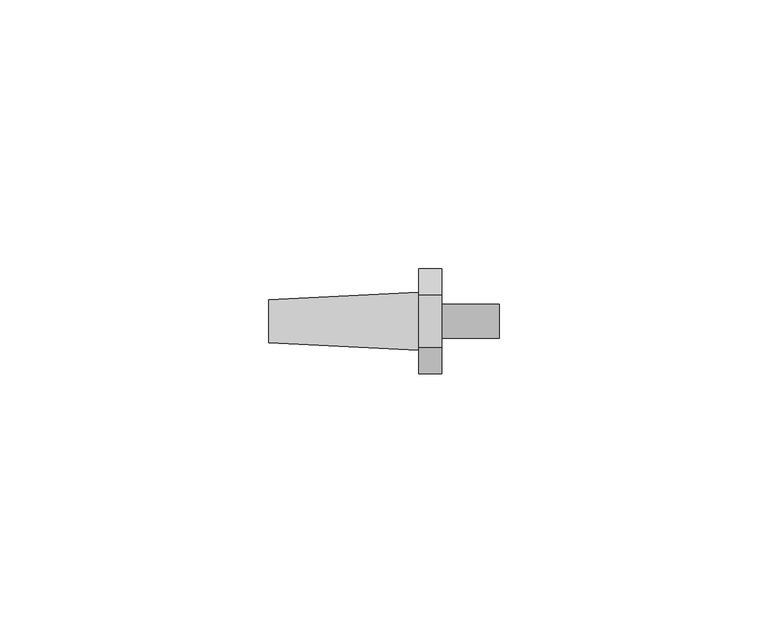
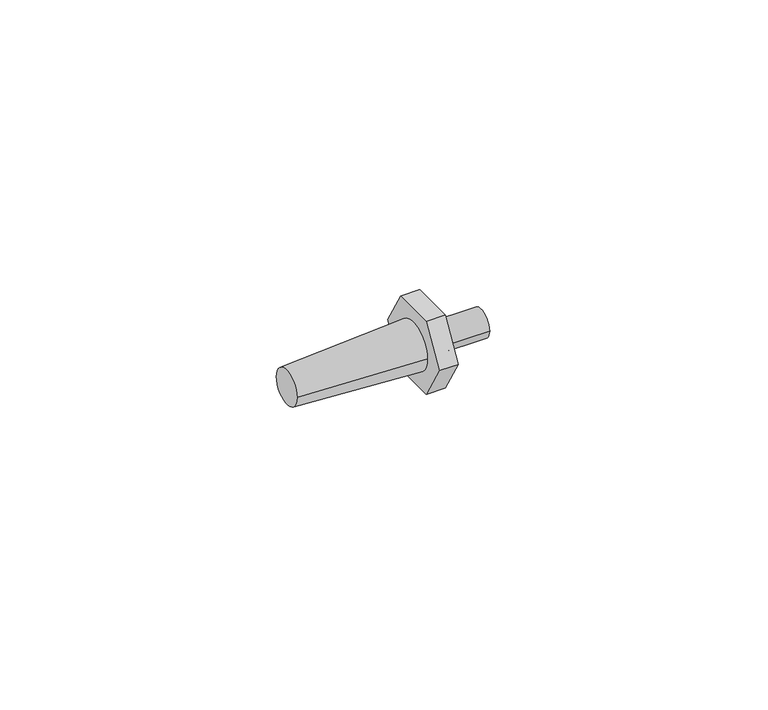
"""IFC4 building model written with IfcOpenShell, lengths in millimetres: pipe fitting geometry, 01011013 : Espiga conexion cónica/roscada."""

from ifc_helpers import new_model, si_unit, frame, origin, place, context, project, spatial, polyline, circle_curve, source, transform, mapped, element, save
from ifc_brep_helpers import plane_surface, cylinder_surface, revolved_surface, advanced_brep


def pipe_fitting_6959d2b4(model_context):
    return source(origin(), model_context, "Body", "AdvancedBrep", [
        advanced_brep(
        [(-21.5, 4.0, 0.0), (-21.5, -4.0, 0.0), (6.5, 5.4, 0.0), (6.5, -5.4, 0.0)],
        [
            (0, 1, circle_curve(frame((-21.5, 0.0, 0.0), z_axis=(-1.0, 0.0, 0.0), x_axis=(0.0, 1.0, 0.0)), 4.0)),
            (1, 0, circle_curve(frame((-21.5, 0.0, 0.0), z_axis=(-1.0, 0.0, 0.0), x_axis=(0.0, -1.0, 0.0)), 4.0)),
            (2, 3, circle_curve(frame((6.5, 0.0, 0.0), z_axis=(1.0, 0.0, 0.0), x_axis=(0.0, -1.0, 0.0)), 5.4)),
            (3, 2, circle_curve(frame((6.5, 0.0, 0.0), z_axis=(1.0, 0.0, 0.0), x_axis=(0.0, 1.0, 0.0)), 5.4)),
            (3, 1),
            (0, 2),
        ],
        [
            plane_surface(frame((-21.5, 0.0, 0.0), z_axis=(-1.0, 0.0, 0.0), x_axis=(0.0, 0.0, -1.0))),
            plane_surface(frame((6.5, 0.0, 0.0), z_axis=(1.0, 0.0, 0.0), x_axis=(0.0, 0.0, -1.0))),
            revolved_surface(polyline([(-21.5, 4.0, 0.0), (6.5, 5.4, 0.0)]), (-101.5, 0.0, 0.0), (1.0, 0.0, 0.0)),
            revolved_surface(polyline([(-21.5, -4.0, 0.0), (6.5, -5.4, 0.0)]), (-101.5, 0.0, 0.0), (1.0, 0.0, 0.0)),
        ],
        [
            (0, [[1, 2]]),
            (1, [[3, 4]]),
            (2, [[-4, 5, -1, 6]]),
            (3, [[-3, -6, -2, -5]]),
        ],
    ),
        advanced_brep(
        [(10.75, -4.9074773, 8.5), (10.75, -9.8149546, 0.0), (10.75, -4.9074773, -8.5), (10.75, 4.9074773, -8.5), (10.75, 9.8149546, 0.0), (10.75, 4.9074773, 8.5), (10.75, -3.175, 0.0), (10.75, 3.175, 0.0), (6.5, -4.9074773, 8.5), (6.5, 4.9074773, 8.5), (6.5, 9.8149546, 0.0), (6.5, 4.9074773, -8.5), (6.5, -4.9074773, -8.5), (6.5, -9.8149546, 0.0), (21.5, -3.175, 0.0), (21.5, 3.175, 0.0)],
        [
            (0, 1),
            (1, 2),
            (2, 3),
            (3, 4),
            (4, 5),
            (5, 0),
            (6, 7, circle_curve(frame((10.75, 0.0, 0.0), z_axis=(-1.0, 0.0, 0.0), x_axis=(0.0, 1.0, 0.0)), 3.175)),
            (7, 6, circle_curve(frame((10.75, 0.0, 0.0), z_axis=(-1.0, 0.0, 0.0), x_axis=(0.0, 1.0, 0.0)), 3.175)),
            (8, 9),
            (9, 10),
            (10, 11),
            (11, 12),
            (12, 13),
            (13, 8),
            (0, 8),
            (13, 1),
            (12, 2),
            (11, 3),
            (10, 4),
            (9, 5),
            (14, 15, circle_curve(frame((21.5, 0.0, 0.0), z_axis=(1.0, 0.0, 0.0), x_axis=(0.0, 1.0, 0.0)), 3.175)),
            (15, 14, circle_curve(frame((21.5, 0.0, 0.0), z_axis=(1.0, 0.0, 0.0), x_axis=(0.0, 1.0, 0.0)), 3.175)),
            (15, 7),
            (6, 14),
        ],
        [
            plane_surface(frame((10.75, -4.9074773, 8.5), z_axis=(1.0, 0.0, 0.0), x_axis=(0.0, -0.500000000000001, -0.866025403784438))),
            plane_surface(frame((6.5, -4.9074773, 8.5), z_axis=(-1.0, 0.0, 0.0), x_axis=(0.0, 0.500000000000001, 0.866025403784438))),
            plane_surface(frame((10.75, -4.9074773, 8.5), z_axis=(0.0, -0.866025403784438, 0.500000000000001), x_axis=(-1.0, 0.0, 0.0))),
            plane_surface(frame((10.75, -9.8149546, 0.0), z_axis=(0.0, -0.8660254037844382, -0.500000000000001), x_axis=(-1.0, 0.0, 0.0))),
            plane_surface(frame((10.75, -4.9074773, -8.5), z_axis=(0.0, 0.0, -1.0), x_axis=(-1.0, 0.0, 0.0))),
            plane_surface(frame((10.75, 4.9074773, -8.5), z_axis=(0.0, 0.8660254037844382, -0.500000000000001), x_axis=(-1.0, 0.0, 0.0))),
            plane_surface(frame((10.75, 9.8149546, 0.0), z_axis=(0.0, 0.866025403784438, 0.5000000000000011), x_axis=(-1.0, 0.0, 0.0))),
            plane_surface(frame((10.75, 4.9074773, 8.5), z_axis=(0.0, 0.0, 1.0), x_axis=(-1.0, 0.0, 0.0))),
            plane_surface(frame((21.5, 0.0, 0.0), z_axis=(1.0, 0.0, 0.0), x_axis=(0.0, 0.0, 1.0))),
            cylinder_surface(frame((10.75, 0.0, 0.0), z_axis=(-1.0, 0.0, 0.0), x_axis=(0.0, 1.0, 0.0)), 3.175),
        ],
        [
            (0, [[1, 2, 3, 4, 5, 6], [7, 8]]),
            (1, [[9, 10, 11, 12, 13, 14]]),
            (2, [[-1, 15, -14, 16]]),
            (3, [[-2, -16, -13, 17]]),
            (4, [[-3, -17, -12, 18]]),
            (5, [[-4, -18, -11, 19]]),
            (6, [[-5, -19, -10, 20]]),
            (7, [[-6, -20, -9, -15]]),
            (8, [[21, 22]]),
            (9, [[-22, 23, -7, 24]]),
            (9, [[-21, -24, -8, -23]]),
        ],
    ),
    ])


if __name__ == "__main__":
    model = new_model("IFC4")
    model_context = context("Model", 3, world=origin())
    ifc_project = project(units=[si_unit("LENGTHUNIT", "METRE", prefix="MILLI")], contexts=[model_context])
    site = spatial("IfcSite", under=ifc_project)
    building = spatial("IfcBuilding", under=site)
    placement = place(None, origin())
    pipe_fitting_shape = pipe_fitting_6959d2b4(model_context)
    element("IfcPipeFitting", 1, ObjectType="01011013 : Espiga conexion cónica/roscada", at=placement, inside=building, context=model_context, shape_type="MappedRepresentation", body=[
        mapped(pipe_fitting_shape, transform((0.0, 0.0, 0.0), x_axis=(1.0, 0.0, 0.0), y_axis=(0.0, 1.0, 0.0), z_axis=(0.0, 0.0, 1.0))),
    ])
    save(model, "model.ifc")
